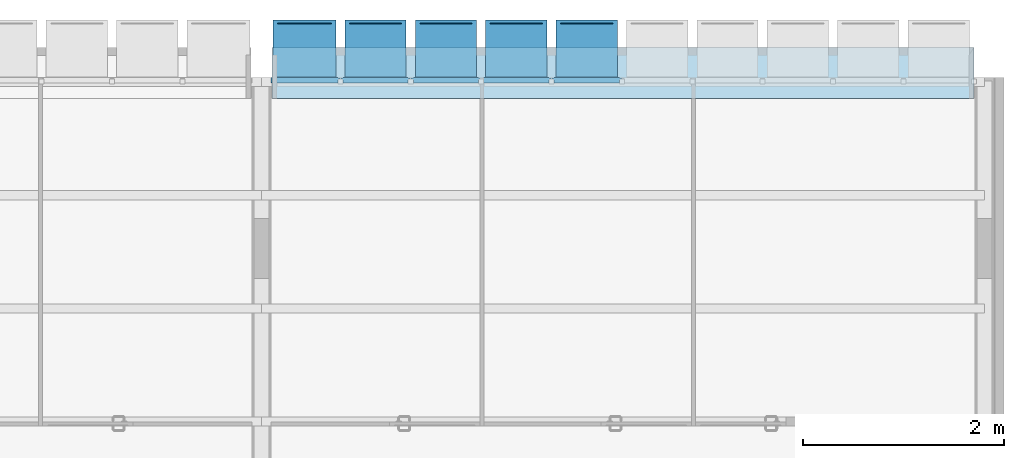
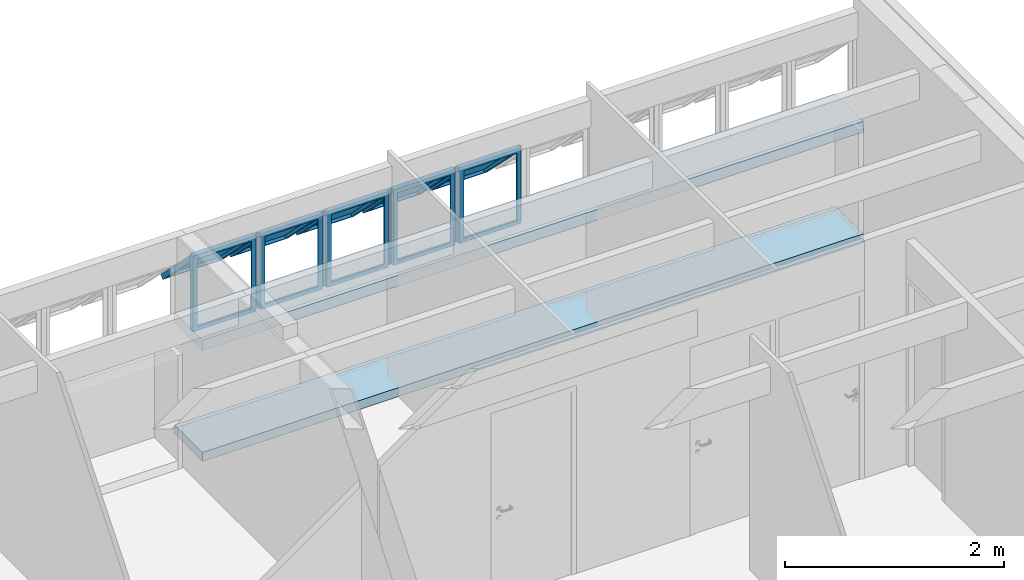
# One storey, part 16 of 40: 5 plates, 2 slabs, 1 element without a shape of its own.
"""IFC4 building model written with IfcOpenShell, lengths in millimetres."""

import ifcopenshell
import ifcopenshell.guid

model = None  # the IFC model being written
_history = None  # IfcOwnerHistory: only IFC2X3 demands one
_inside = {}  # id of a spatial element -> (the spatial element, [elements in it])
_under = {}  # id of a project, library or spatial element -> (it, [spatial elements below it])
_declared = {}  # id of a project -> (the project, [libraries it declares])
_typed = {}  # id of a type object -> (the type object, [elements of that type])
_made_of = {}  # id of a material, layer set ... -> (it, [elements and type objects made of it])


def new_model(schema):
    """Start an empty IFC model of exactly this schema.

    Asked for "IFC4X3", IfcOpenShell would pick the latest addendum, in which some entities
    have other attributes; the version numbers below select the first issue.
    IFC2X3 requires an IfcOwnerHistory on every rooted entity: one is made here for all.
    """
    global model, _history
    if schema == "IFC4X3":
        model = ifcopenshell.file(schema_version=(4, 3, 0, 0))
    else:
        model = ifcopenshell.file(schema=schema)
    _inside.clear()
    _under.clear()
    _declared.clear()
    _typed.clear()
    _made_of.clear()
    _history = None
    if model.schema == "IFC2X3":
        org = make("IfcOrganization", Name="unknown")
        user = make(
            "IfcPersonAndOrganization",
            ThePerson=make("IfcPerson", FamilyName="unknown"),
            TheOrganization=org,
        )
        app = make(
            "IfcApplication",
            ApplicationDeveloper=org,
            Version="unknown",
            ApplicationFullName="unknown",
            ApplicationIdentifier="unknown",
        )
        _history = make(
            "IfcOwnerHistory",
            OwningUser=user,
            OwningApplication=app,
            ChangeAction="ADDED",
            CreationDate=0,
        )
    return model


def make(cls, **values):
    """One entity of the class cls with the attributes given. An attribute that is None is left unset."""
    return model.create_entity(
        cls, **{name: value for name, value in values.items() if value is not None}
    )


def entity(cls, *values):
    """Any entity or typed value of the class cls, its attributes in the order of the schema. None: left unset."""
    e = model.create_entity(cls)
    for i, value in enumerate(values):
        if value is not None:
            e[i] = value
    return e


def rooted(cls, **values):
    """An entity with a GlobalId (a new one), such as an element, a storey or a relation."""
    return make(cls, GlobalId=ifcopenshell.guid.new(), OwnerHistory=_history, **values)


def si_unit(unit_type, name, prefix=None):
    """IfcSIUnit, for example si_unit("LENGTHUNIT", "METRE", prefix="MILLI")."""
    return make("IfcSIUnit", UnitType=unit_type, Prefix=prefix, Name=name)


def converted_unit(unit_type, name, factor, base, dimensions=None, offset=None):
    """IfcConversionBasedUnit, such as the inch: factor (a typed value) times the base unit."""
    return make(
        "IfcConversionBasedUnit"
        if offset is None
        else "IfcConversionBasedUnitWithOffset",
        ConversionOffset=offset,
        Dimensions=None
        if dimensions is None
        else entity("IfcDimensionalExponents", *dimensions),
        UnitType=unit_type,
        Name=name,
        ConversionFactor=make(
            "IfcMeasureWithUnit", ValueComponent=factor, UnitComponent=base
        ),
    )


def derived_unit(unit_type, elements):
    """IfcDerivedUnit: a product of units, each with its exponent."""
    return make(
        "IfcDerivedUnit",
        Elements=[
            make("IfcDerivedUnitElement", Unit=unit, Exponent=power)
            for unit, power in elements
        ],
        UnitType=unit_type,
    )


def assignment(units):
    """IfcUnitAssignment: the units of a project."""
    return None if units is None else make("IfcUnitAssignment", Units=units)


def point(xyz):
    """IfcCartesianPoint."""
    return None if xyz is None else make("IfcCartesianPoint", Coordinates=xyz)


def direction(xyz):
    """IfcDirection."""
    return None if xyz is None else make("IfcDirection", DirectionRatios=xyz)


def frame(location, z_axis=None, x_axis=None):
    """IfcAxis2Placement3D, a coordinate frame: its origin and axes. An axis left out is left unset."""
    return make(
        "IfcAxis2Placement3D",
        Location=point(location),
        Axis=direction(z_axis),
        RefDirection=direction(x_axis),
    )


def origin_with_axes():
    """The frame at (0, 0, 0) with the z axis (0, 0, 1) and the x axis (1, 0, 0) written out."""
    return frame((0.0, 0.0, 0.0), z_axis=(0.0, 0.0, 1.0), x_axis=(1.0, 0.0, 0.0))


def place(relative_to, where):
    """IfcLocalPlacement: puts the frame where relative to a parent placement (None: the world)."""
    return make(
        "IfcLocalPlacement", PlacementRelTo=relative_to, RelativePlacement=where
    )


def context(
    kind, dimensions, precision=None, world=None, true_north=None, identifier=None
):
    """IfcGeometricRepresentationContext, for example the 3D "Model" context."""
    return make(
        "IfcGeometricRepresentationContext",
        ContextIdentifier=identifier,
        ContextType=kind,
        CoordinateSpaceDimension=dimensions,
        Precision=precision,
        WorldCoordinateSystem=world,
        TrueNorth=true_north,
    )


def subcontext(parent, identifier, kind, view, scale=None):
    """IfcGeometricRepresentationSubContext, for example "Body" below "Model"."""
    return make(
        "IfcGeometricRepresentationSubContext",
        ContextIdentifier=identifier,
        ContextType=kind,
        ParentContext=parent,
        TargetScale=scale,
        TargetView=view,
    )


def project(units=None, contexts=None):
    """IfcProject with its units and contexts."""
    return rooted(
        "IfcProject",
        Name="project",
        RepresentationContexts=contexts,
        UnitsInContext=assignment(units),
    )


def spatial(cls, under=None, at=None, **own):
    """A site, building, storey or space (cls), placed at a placement, below another one or the project."""
    s = rooted(cls, ObjectPlacement=at, **own)
    if under is not None:
        _under.setdefault(under.id(), (under, []))[1].append(s)
    return s


def point_list(points):
    """IfcCartesianPointList2D or 3D."""
    cls = (
        "IfcCartesianPointList2D" if len(points[0]) == 2 else "IfcCartesianPointList3D"
    )
    return make(cls, CoordList=points)


def line(*indices):
    """IfcLineIndex: a straight run through numbered points of an indexed curve."""
    return model.create_entity("IfcLineIndex", indices)


def indexed_curve(points, segments=None, self_intersect=None):
    """IfcIndexedPolyCurve: lines and arcs through numbered points (the first is 1)."""
    return make(
        "IfcIndexedPolyCurve",
        Points=point_list(points),
        Segments=segments,
        SelfIntersect=self_intersect,
    )


def outline(outer, holes=None, kind="AREA"):
    """IfcArbitraryClosedProfileDef: a profile drawn as a closed curve; with holes, ...WithVoids."""
    if holes is None:
        return make("IfcArbitraryClosedProfileDef", ProfileType=kind, OuterCurve=outer)
    return make(
        "IfcArbitraryProfileDefWithVoids",
        ProfileType=kind,
        OuterCurve=outer,
        InnerCurves=holes,
    )


def extrude(swept, where, along, depth):
    """IfcExtrudedAreaSolid: the profile swept, set in the frame where, extruded along a direction by depth."""
    return make(
        "IfcExtrudedAreaSolid",
        SweptArea=swept,
        Position=where,
        ExtrudedDirection=direction(along),
        Depth=depth,
    )


def polygons(points, faces, closed=None, point_numbers=None):
    """IfcPolygonalFaceSet: a face is its outer loop, then its inner loops; points numbered from 1."""
    made = []
    for loops in faces:
        if len(loops) == 1:
            made.append(make("IfcIndexedPolygonalFace", CoordIndex=loops[0]))
        else:
            made.append(
                make(
                    "IfcIndexedPolygonalFaceWithVoids",
                    CoordIndex=loops[0],
                    InnerCoordIndices=loops[1:],
                )
            )
    return make(
        "IfcPolygonalFaceSet",
        Coordinates=point_list(points),
        Closed=closed,
        Faces=made,
        PnIndex=point_numbers,
    )


def shape(context_of_items, identifier, shape_type, items):
    """IfcShapeRepresentation: the items that make up one representation, for example the "Body"."""
    return make(
        "IfcShapeRepresentation",
        ContextOfItems=context_of_items,
        RepresentationIdentifier=identifier,
        RepresentationType=shape_type,
        Items=items,
    )


def source(mapping_origin, context_of_items, identifier, shape_type, items):
    """IfcRepresentationMap: a shape defined once, which mapped items show again and again."""
    return make(
        "IfcRepresentationMap",
        MappingOrigin=mapping_origin,
        MappedRepresentation=shape(context_of_items, identifier, shape_type, items),
    )


def transform(
    local_origin,
    x_axis=None,
    y_axis=None,
    z_axis=None,
    scale=None,
    scale2=None,
    scale3=None,
    uniform=True,
):
    """IfcCartesianTransformationOperator3D, or its non-uniform kind. x_axis, y_axis, z_axis: its Axis1, 2, 3."""
    if uniform:
        return make(
            "IfcCartesianTransformationOperator3D",
            Axis1=direction(x_axis),
            Axis2=direction(y_axis),
            LocalOrigin=point(local_origin),
            Scale=scale,
            Axis3=direction(z_axis),
        )
    return make(
        "IfcCartesianTransformationOperator3DnonUniform",
        Axis1=direction(x_axis),
        Axis2=direction(y_axis),
        LocalOrigin=point(local_origin),
        Scale=scale,
        Axis3=direction(z_axis),
        Scale2=scale2,
        Scale3=scale3,
    )


def mapped(mapping_source, mapping_target):
    """IfcMappedItem: shows the shape of a source again, moved by a transform."""
    return make(
        "IfcMappedItem", MappingSource=mapping_source, MappingTarget=mapping_target
    )


def material(Name=None, Category=None):
    """IfcMaterial."""
    return make("IfcMaterial", Name=Name, Category=Category)


def layer(
    of_material, thickness, ventilated=None, Name=None, Category=None, Priority=None
):
    """IfcMaterialLayer: one layer of a wall or slab, of a material (None: an air gap)."""
    return make(
        "IfcMaterialLayer",
        Material=of_material,
        LayerThickness=thickness,
        IsVentilated=ventilated,
        Name=Name,
        Category=Category,
        Priority=Priority,
    )


def layer_set(layers, Name=None):
    """IfcMaterialLayerSet."""
    return make("IfcMaterialLayerSet", MaterialLayers=layers, LayerSetName=Name)


def layer_usage(for_layer_set, set_direction, sense, offset, extent=None):
    """IfcMaterialLayerSetUsage: how a layer set lies in its element."""
    return make(
        "IfcMaterialLayerSetUsage",
        ForLayerSet=for_layer_set,
        LayerSetDirection=set_direction,
        DirectionSense=sense,
        OffsetFromReferenceLine=offset,
        ReferenceExtent=extent,
    )


def constituent(of_material, Name=None, Category=None, fraction=None):
    """IfcMaterialConstituent: one of the materials an element consists of."""
    return make(
        "IfcMaterialConstituent",
        Name=Name,
        Material=of_material,
        Fraction=fraction,
        Category=Category,
    )


def constituent_set(constituents=None, Name=None):
    """IfcMaterialConstituentSet."""
    return make(
        "IfcMaterialConstituentSet", Name=Name, MaterialConstituents=constituents
    )


def made_of(thing, what):
    """Note that an element or type object is made of a material, layer set ...; save() writes the relation."""
    if what is not None:
        _made_of.setdefault(what.id(), (what, []))[1].append(thing)
    return thing


def type_object(cls, material=None, **own):
    """A type object (cls), such as IfcWallType, which elements share."""
    return made_of(rooted(cls, **own), material)


def element(
    cls,
    number,
    at=None,
    inside=None,
    cuts=None,
    type_object=None,
    material=None,
    context=None,
    identifier="Body",
    shape_type=None,
    held_by="IfcProductDefinitionShape",
    body=None,
    shapes=None,
    **own,
):
    """One element of the class cls, such as IfcWall. Its Tag is "e" and its number.

    at: its placement. inside: the storey or other place that contains it. cuts: it is an
    opening in that element (IfcRelVoidsElement). A single representation is given by context,
    identifier, shape_type and body (its items); several are given by shapes. held_by: the class
    of the entity that holds the representations. save() writes the other relations.
    """
    e = rooted(cls, Tag="e%d" % number, ObjectPlacement=at, **own)
    if body is not None:
        shapes = [shape(context, identifier, shape_type, body)]
    if shapes is not None:
        e.Representation = make(held_by, Representations=shapes)
    if inside is not None:
        _inside.setdefault(inside.id(), (inside, []))[1].append(e)
    if cuts is not None:
        rooted(
            "IfcRelVoidsElement", RelatingBuildingElement=cuts, RelatedOpeningElement=e
        )
    if type_object is not None:
        _typed.setdefault(type_object.id(), (type_object, []))[1].append(e)
    return made_of(e, material)


def aggregate(whole, parts):
    """IfcRelAggregates: a whole, such as a stair, and the parts it consists of."""
    return rooted("IfcRelAggregates", RelatingObject=whole, RelatedObjects=parts)


def save(model, path):
    """Write the relations noted so far, then the file.

    IfcRelAggregates (storeys below a building ...), IfcRelContainedInSpatialStructure (elements
    in a storey), IfcRelDefinesByType, IfcRelAssociatesMaterial and IfcRelDeclares: one each for
    every whole, place, type object, material and project.
    """
    for whole, parts in _under.values():
        aggregate(whole, parts)
    for where, things in _inside.values():
        rooted(
            "IfcRelContainedInSpatialStructure",
            RelatedElements=things,
            RelatingStructure=where,
        )
    for kind, things in _typed.values():
        rooted("IfcRelDefinesByType", RelatedObjects=things, RelatingType=kind)
    for what, things in _made_of.values():
        rooted("IfcRelAssociatesMaterial", RelatedObjects=things, RelatingMaterial=what)
    for by, libraries in _declared.values():
        rooted("IfcRelDeclares", RelatingContext=by, RelatedDefinitions=libraries)
    model.write(path)


model = new_model("IFC4")

# Units and contexts
model_context = context("Model", 3, precision=0.01, world=origin_with_axes(), true_north=direction((0.0, 1.0)))
body_context = subcontext(model_context, "Body", "Model", "MODEL_VIEW")
ifc_project = project(units=[si_unit("LENGTHUNIT", "METRE", prefix="MILLI"), si_unit("AREAUNIT", "SQUARE_METRE"), si_unit("VOLUMEUNIT", "CUBIC_METRE"), converted_unit("PLANEANGLEUNIT", "DEGREE", entity("IfcPlaneAngleMeasure", 0.0174532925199), si_unit("PLANEANGLEUNIT", "RADIAN"), dimensions=[0, 0, 0, 0, 0, 0, 0]), converted_unit("TIMEUNIT", "Year", entity("IfcTimeMeasure", 31556926.0), si_unit("TIMEUNIT", "SECOND"), dimensions=[0, 0, 1, 0, 0, 0, 0]), si_unit("MASSUNIT", "GRAM", prefix="KILO"), si_unit("THERMODYNAMICTEMPERATUREUNIT", "DEGREE_CELSIUS"), si_unit("LUMINOUSINTENSITYUNIT", "LUMEN"), si_unit("ENERGYUNIT", "JOULE", prefix="MEGA"), derived_unit("THERMALCONDUCTANCEUNIT", [(si_unit("POWERUNIT", "WATT"), 1), (si_unit("LENGTHUNIT", "METRE"), -1), (si_unit("THERMODYNAMICTEMPERATUREUNIT", "KELVIN"), -1)]), derived_unit("SPECIFICHEATCAPACITYUNIT", [(si_unit("ENERGYUNIT", "JOULE"), 1), (si_unit("MASSUNIT", "GRAM", prefix="KILO"), -1), (si_unit("THERMODYNAMICTEMPERATUREUNIT", "KELVIN"), -1)]), derived_unit("MASSDENSITYUNIT", [(si_unit("MASSUNIT", "GRAM", prefix="KILO"), 1), (si_unit("VOLUMEUNIT", "CUBIC_METRE"), -1)])], contexts=[model_context])

# Site, building, storey
site_placement = place(None, origin_with_axes())
site = spatial("IfcSite", under=ifc_project, at=site_placement, Name="Local", CompositionType="ELEMENT")
building_placement = place(site_placement, origin_with_axes())
building = spatial("IfcBuilding", under=site, at=building_placement, Name="Construção", CompositionType="ELEMENT")
storey_placement = place(building_placement, origin_with_axes())
storey = spatial("IfcBuildingStorey", under=building, at=storey_placement, Name="Primeiro Pavimento", CompositionType="ELEMENT", Elevation=0.0)

# Slab
ifc_material_1 = material(Name="Concreto Armado Moldado in Loco - Estrutural")
ifc_layer_1 = layer(ifc_material_1, 120.0, ventilated="UNKNOWN", Name="Concreto Armado Moldado in Loco - Estrutural")
ifc_layer_set_1 = layer_set([ifc_layer_1], Name="Concreto Armado Moldado in Loco - Estrutural 120")
ifc_layer_usage_1 = layer_usage(ifc_layer_set_1, "AXIS3", "NEGATIVE", 120.0)
slab_type_1 = type_object("IfcSlabType", Name="Concreto Armado Moldado in Loco - Estrutural 120", PredefinedType="FLOOR")
slab_1_placement = place(storey_placement, frame((14470.0, 26160.0, 1355.0), z_axis=(0.0, 0.0, 1.0), x_axis=(1.0, 0.0, 0.0)))
element("IfcSlab", 1, at=slab_1_placement, inside=storey, type_object=slab_type_1, material=ifc_layer_usage_1, Name="APTO4-LAJE-002", PredefinedType="FLOOR", context=body_context, shape_type="SweptSolid", body=[
    extrude(outline(indexed_curve([(0.0, 0.0), (-6980.0, 0.0), (-6980.0, -510.0), (0.0, -510.0)], segments=[line(1, 2, 3, 4, 1)])), frame((0.0, 0.0, -120.0), z_axis=(0.0, 0.0, 1.0), x_axis=(1.0, 0.0, 0.0)), (0.0, 0.0, 1.0), 120.0),
])

# Window, plates
window_type = type_object("IfcWindowType", Name="Tipo de Parede Cortina", PartitioningType="NOTDEFINED", PredefinedType="NOTDEFINED")
window_placement = place(storey_placement, frame((8520.0, 25844.9790225, 1355.02054151), z_axis=(0.0, 0.0, 1.0), x_axis=(1.0, 0.0, 0.0)))
window = element("IfcWindow", 2, at=window_placement, inside=storey, type_object=window_type, Name="APTO4-JANELA-001", PredefinedType="NOTDEFINED")
ifc_material_2 = material(Name="Alumínio")
ifc_constituent_1 = constituent(ifc_material_2, Name="Alumínio")
ifc_material_3 = material(Name="Vidro")
ifc_constituent_2 = constituent(ifc_material_3, Name="Vidro")
ifc_constituent_set_1 = constituent_set(constituents=[ifc_constituent_1, ifc_constituent_2])
plate_type_1 = type_object("IfcPlateType", Name="Painel Principal 690 x 845 x 20", PredefinedType="CURTAIN_PANEL")
shared_shape_1 = source(origin_with_axes(), body_context, "Body", "Tessellation", [
    polygons([(25.0000036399, 0.0, -40.0), (674.999997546, 0.0, -40.0), (674.999997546, 0.0, -35.0), (25.0000036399, 0.0, -35.0), (70.0000036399, 45.0, -40.0), (629.999997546, 45.0, -40.0), (629.999997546, 45.0, -35.0), (70.0000036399, 45.0, -35.0)], [[[1, 2, 3, 4]], [[1, 5, 6, 2]], [[2, 6, 7, 3]], [[4, 3, 7, 8]], [[5, 1, 4, 8]], [[6, 5, 8, 7]]], closed=True),
    polygons([(674.999997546, 0.0, -40.0), (674.999997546, 844.999891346, -40.0), (674.999997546, 844.999891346, -35.0), (674.999997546, 0.0, -35.0), (629.999997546, 45.0, -40.0), (629.999997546, 799.999891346, -40.0), (629.999997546, 799.999891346, -35.0), (629.999997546, 45.0, -35.0)], [[[1, 2, 3, 4]], [[1, 5, 6, 2]], [[2, 6, 7, 3]], [[4, 3, 7, 8]], [[5, 1, 4, 8]], [[6, 5, 8, 7]]], closed=True),
    polygons([(25.0000036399, 844.999891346, -40.0), (70.0000036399, 799.999891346, -40.0), (70.0000036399, 799.999891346, -35.0), (25.0000036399, 844.999891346, -35.0), (674.999997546, 844.999891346, -40.0), (629.999997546, 799.999891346, -40.0), (629.999997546, 799.999891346, -35.0), (674.999997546, 844.999891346, -35.0)], [[[1, 2, 3, 4]], [[1, 5, 6, 2]], [[2, 6, 7, 3]], [[4, 3, 7, 8]], [[5, 1, 4, 8]], [[6, 5, 8, 7]]], closed=True),
    polygons([(25.0000036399, 0.0, -40.0), (70.0000036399, 45.0, -40.0), (70.0000036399, 45.0, -35.0), (25.0000036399, 0.0, -35.0), (25.0000036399, 844.999891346, -40.0), (70.0000036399, 799.999891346, -40.0), (70.0000036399, 799.999891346, -35.0), (25.0000036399, 844.999891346, -35.0)], [[[1, 2, 3, 4]], [[1, 5, 6, 2]], [[2, 6, 7, 3]], [[4, 3, 7, 8]], [[5, 1, 4, 8]], [[6, 5, 8, 7]]], closed=True),
    polygons([(25.0000036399, 0.0, -35.0), (674.999997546, 0.0, -35.0), (674.999997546, 0.0, 15.0), (25.0000036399, 0.0, 15.0), (45.0000036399, 20.0, -35.0), (654.999997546, 20.0, -35.0), (654.999997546, 20.0, 15.0), (45.0000036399, 20.0, 15.0)], [[[1, 2, 3, 4]], [[1, 5, 6, 2]], [[2, 6, 7, 3]], [[4, 3, 7, 8]], [[5, 1, 4, 8]], [[6, 5, 8, 7]]], closed=True),
    polygons([(674.999997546, 0.0, -35.0), (674.999997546, 844.999891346, -35.0), (674.999997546, 844.999891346, 15.0), (674.999997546, 0.0, 15.0), (654.999997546, 20.0, -35.0), (654.999997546, 824.999891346, -35.0), (654.999997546, 824.999891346, 15.0), (654.999997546, 20.0, 15.0)], [[[1, 2, 3, 4]], [[1, 5, 6, 2]], [[2, 6, 7, 3]], [[4, 3, 7, 8]], [[5, 1, 4, 8]], [[6, 5, 8, 7]]], closed=True),
    polygons([(25.0000036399, 844.999891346, -35.0), (45.0000036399, 824.999891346, -35.0), (45.0000036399, 824.999891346, 15.0), (25.0000036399, 844.999891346, 15.0), (674.999997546, 844.999891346, -35.0), (654.999997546, 824.999891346, -35.0), (654.999997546, 824.999891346, 15.0), (674.999997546, 844.999891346, 15.0)], [[[1, 2, 3, 4]], [[1, 5, 6, 2]], [[2, 6, 7, 3]], [[4, 3, 7, 8]], [[5, 1, 4, 8]], [[6, 5, 8, 7]]], closed=True),
    polygons([(25.0000036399, 0.0, -35.0), (45.0000036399, 20.0, -35.0), (45.0000036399, 20.0, 15.0), (25.0000036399, 0.0, 15.0), (25.0000036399, 844.999891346, -35.0), (45.0000036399, 824.999891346, -35.0), (45.0000036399, 824.999891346, 15.0), (25.0000036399, 844.999891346, 15.0)], [[[1, 2, 3, 4]], [[1, 5, 6, 2]], [[2, 6, 7, 3]], [[4, 3, 7, 8]], [[5, 1, 4, 8]], [[6, 5, 8, 7]]], closed=True),
    polygons([(694.999995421, 0.0, -10.0), (694.999995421, 844.999891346, -10.0), (694.999995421, 844.999891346, 10.0), (694.999995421, 0.0, 10.0), (674.999997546, 0.0, -10.0), (674.999997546, 844.999891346, -10.0), (674.999997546, 844.999891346, 10.0), (674.999997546, 0.0, 10.0)], [[[1, 2, 3, 4]], [[1, 5, 6, 2]], [[2, 6, 7, 3]], [[4, 3, 7, 8]], [[5, 1, 4, 8]], [[6, 5, 8, 7]]], closed=True),
    polygons([(5.00000576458, 844.999891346, -10.0), (5.00000576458, 0.0, -10.0), (5.00000576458, 0.0, 10.0), (5.00000576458, 844.999891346, 10.0), (25.0000036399, 844.999891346, -10.0), (25.0000036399, 0.0, -10.0), (25.0000036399, 0.0, 10.0), (25.0000036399, 844.999891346, 10.0)], [[[1, 2, 3, 4]], [[1, 5, 6, 2]], [[2, 6, 7, 3]], [[4, 3, 7, 8]], [[5, 1, 4, 8]], [[6, 5, 8, 7]]], closed=True),
    polygons([(90.0000036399, 252.243475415, 517.045737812), (90.0000036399, 757.824747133, 11.4644660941), (90.0000036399, 796.715620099, 50.3553390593), (90.0000036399, 291.13434838, 555.936610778), (45.0000036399, 220.423670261, 548.865542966), (45.0000036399, 789.644552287, -20.3553390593), (45.0000036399, 828.535425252, 18.5355339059), (45.0000036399, 259.314543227, 587.756415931)], [[[1, 2, 3, 4]], [[1, 5, 6, 2]], [[2, 6, 7, 3]], [[4, 3, 7, 8]], [[5, 1, 4, 8]], [[6, 5, 8, 7]]], closed=True),
    polygons([(654.999997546, 220.423670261, 548.865542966), (654.999997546, 789.644552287, -20.3553390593), (654.999997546, 828.535425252, 18.5355339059), (654.999997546, 259.314543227, 587.756415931), (609.999997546, 252.243475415, 517.045737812), (609.999997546, 757.824747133, 11.4644660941), (609.999997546, 796.715620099, 50.3553390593), (609.999997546, 291.13434838, 555.936610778)], [[[1, 2, 3, 4]], [[1, 5, 6, 2]], [[2, 6, 7, 3]], [[4, 3, 7, 8]], [[5, 1, 4, 8]], [[6, 5, 8, 7]]], closed=True),
    polygons([(654.999997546, 220.423670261, 548.865542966), (609.999997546, 252.243475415, 517.045737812), (609.999997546, 291.13434838, 555.936610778), (654.999997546, 259.314543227, 587.756415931), (45.0000036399, 220.423670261, 548.865542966), (90.0000036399, 252.243475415, 517.045737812), (90.0000036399, 291.13434838, 555.936610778), (45.0000036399, 259.314543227, 587.756415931)], [[[1, 2, 3, 4]], [[1, 5, 6, 2]], [[2, 6, 7, 3]], [[4, 3, 7, 8]], [[5, 1, 4, 8]], [[6, 5, 8, 7]]], closed=True),
    polygons([(45.0000036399, 789.644552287, -20.3553390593), (90.0000036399, 757.824747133, 11.4644660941), (90.0000036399, 796.715620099, 50.3553390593), (45.0000036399, 828.535425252, 18.5355339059), (654.999997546, 789.644552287, -20.3553390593), (609.999997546, 757.824747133, 11.4644660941), (609.999997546, 796.715620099, 50.3553390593), (654.999997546, 828.535425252, 18.5355339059)], [[[1, 2, 3, 4]], [[1, 5, 6, 2]], [[2, 6, 7, 3]], [[4, 3, 7, 8]], [[5, 1, 4, 8]], [[6, 5, 8, 7]]], closed=True),
    polygons([(90.0000036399, 272.749572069, 537.551834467), (609.999997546, 272.749572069, 537.551834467), (609.999997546, 284.063280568, 548.865542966), (90.0000036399, 284.063280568, 548.865542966), (90.0000036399, 778.330843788, 31.9705627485), (609.999997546, 778.330843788, 31.9705627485), (609.999997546, 789.644552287, 43.2842712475), (90.0000036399, 789.644552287, 43.2842712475)], [[[1, 2, 3, 4]], [[1, 5, 6, 2]], [[2, 6, 7, 3]], [[4, 3, 7, 8]], [[5, 1, 4, 8]], [[6, 5, 8, 7]]], closed=True),
])
plate_1_placement = place(window_placement, frame((0.0, 0.0, 422.499945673), z_axis=(0.0, 0.0, 1.0), x_axis=(1.0, 0.0, 0.0)))
plate_1 = element("IfcPlate", 3, at=plate_1_placement, type_object=plate_type_1, material=ifc_constituent_set_1, Name="APTO4-Painel-Prin-030", PredefinedType="CURTAIN_PANEL", context=body_context, shape_type="MappedRepresentation", body=[
    mapped(shared_shape_1, transform((350.0, 0.0, -422.499945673), x_axis=(-1.0, 0.0, 0.0), y_axis=(0.0, 0.0, 1.0), z_axis=(0.0, 1.0, 0.0))),
])
ifc_constituent_3 = constituent(ifc_material_2, Name="Alumínio")
ifc_constituent_4 = constituent(ifc_material_3, Name="Vidro")
ifc_constituent_set_2 = constituent_set(constituents=[ifc_constituent_3, ifc_constituent_4])
plate_2_placement = place(window_placement, frame((700.0, 0.0, 422.499945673), z_axis=(0.0, 0.0, 1.0), x_axis=(1.0, 0.0, 0.0)))
plate_2 = element("IfcPlate", 4, at=plate_2_placement, type_object=plate_type_1, material=ifc_constituent_set_2, Name="APTO4-Painel-Prin-020", PredefinedType="CURTAIN_PANEL", context=body_context, shape_type="MappedRepresentation", body=[
    mapped(shared_shape_1, transform((350.0, 0.0, -422.499945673), x_axis=(-1.0, 0.0, 0.0), y_axis=(0.0, 0.0, 1.0), z_axis=(0.0, 1.0, 0.0))),
])
ifc_constituent_5 = constituent(ifc_material_2, Name="Alumínio")
ifc_constituent_6 = constituent(ifc_material_3, Name="Vidro")
ifc_constituent_set_3 = constituent_set(constituents=[ifc_constituent_5, ifc_constituent_6])
plate_3_placement = place(window_placement, frame((1400.0, 0.0, 422.499945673), z_axis=(0.0, 0.0, 1.0), x_axis=(1.0, 0.0, 0.0)))
plate_3 = element("IfcPlate", 5, at=plate_3_placement, type_object=plate_type_1, material=ifc_constituent_set_3, Name="APTO4-Painel-Prin-029", PredefinedType="CURTAIN_PANEL", context=body_context, shape_type="MappedRepresentation", body=[
    mapped(shared_shape_1, transform((350.0, 0.0, -422.499945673), x_axis=(-1.0, 0.0, 0.0), y_axis=(0.0, 0.0, 1.0), z_axis=(0.0, 1.0, 0.0))),
])
ifc_constituent_7 = constituent(ifc_material_2, Name="Alumínio")
ifc_constituent_8 = constituent(ifc_material_3, Name="Vidro")
ifc_constituent_set_4 = constituent_set(constituents=[ifc_constituent_7, ifc_constituent_8])
plate_type_2 = type_object("IfcPlateType", Name="Painel Principal 685 x 845 x 20", PredefinedType="CURTAIN_PANEL")
shared_shape_2 = source(origin_with_axes(), body_context, "Body", "Tessellation", [
    polygons([(25.0000046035, 0.0, -40.0), (690.000079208, 0.0, -40.0), (690.000079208, 0.0, -35.0), (25.0000046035, 0.0, -35.0), (70.0000046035, 45.0, -40.0), (645.000079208, 45.0, -40.0), (645.000079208, 45.0, -35.0), (70.0000046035, 45.0, -35.0)], [[[1, 2, 3, 4]], [[1, 5, 6, 2]], [[2, 6, 7, 3]], [[4, 3, 7, 8]], [[5, 1, 4, 8]], [[6, 5, 8, 7]]], closed=True),
    polygons([(690.000079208, 0.0, -40.0), (690.000079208, 844.999923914, -40.0), (690.000079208, 844.999923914, -35.0), (690.000079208, 0.0, -35.0), (645.000079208, 45.0, -40.0), (645.000079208, 799.999923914, -40.0), (645.000079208, 799.999923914, -35.0), (645.000079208, 45.0, -35.0)], [[[1, 2, 3, 4]], [[1, 5, 6, 2]], [[2, 6, 7, 3]], [[4, 3, 7, 8]], [[5, 1, 4, 8]], [[6, 5, 8, 7]]], closed=True),
    polygons([(25.0000046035, 844.999923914, -40.0), (70.0000046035, 799.999923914, -40.0), (70.0000046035, 799.999923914, -35.0), (25.0000046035, 844.999923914, -35.0), (690.000079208, 844.999923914, -40.0), (645.000079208, 799.999923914, -40.0), (645.000079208, 799.999923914, -35.0), (690.000079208, 844.999923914, -35.0)], [[[1, 2, 3, 4]], [[1, 5, 6, 2]], [[2, 6, 7, 3]], [[4, 3, 7, 8]], [[5, 1, 4, 8]], [[6, 5, 8, 7]]], closed=True),
    polygons([(25.0000046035, 0.0, -40.0), (70.0000046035, 45.0, -40.0), (70.0000046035, 45.0, -35.0), (25.0000046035, 0.0, -35.0), (25.0000046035, 844.999923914, -40.0), (70.0000046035, 799.999923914, -40.0), (70.0000046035, 799.999923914, -35.0), (25.0000046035, 844.999923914, -35.0)], [[[1, 2, 3, 4]], [[1, 5, 6, 2]], [[2, 6, 7, 3]], [[4, 3, 7, 8]], [[5, 1, 4, 8]], [[6, 5, 8, 7]]], closed=True),
    polygons([(25.0000046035, 0.0, -35.0), (690.000079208, 0.0, -35.0), (690.000079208, 0.0, 15.0), (25.0000046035, 0.0, 15.0), (45.0000046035, 20.0, -35.0), (670.000079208, 20.0, -35.0), (670.000079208, 20.0, 15.0), (45.0000046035, 20.0, 15.0)], [[[1, 2, 3, 4]], [[1, 5, 6, 2]], [[2, 6, 7, 3]], [[4, 3, 7, 8]], [[5, 1, 4, 8]], [[6, 5, 8, 7]]], closed=True),
    polygons([(690.000079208, 0.0, -35.0), (690.000079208, 844.999923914, -35.0), (690.000079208, 844.999923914, 15.0), (690.000079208, 0.0, 15.0), (670.000079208, 20.0, -35.0), (670.000079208, 824.999923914, -35.0), (670.000079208, 824.999923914, 15.0), (670.000079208, 20.0, 15.0)], [[[1, 2, 3, 4]], [[1, 5, 6, 2]], [[2, 6, 7, 3]], [[4, 3, 7, 8]], [[5, 1, 4, 8]], [[6, 5, 8, 7]]], closed=True),
    polygons([(25.0000046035, 844.999923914, -35.0), (45.0000046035, 824.999923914, -35.0), (45.0000046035, 824.999923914, 15.0), (25.0000046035, 844.999923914, 15.0), (690.000079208, 844.999923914, -35.0), (670.000079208, 824.999923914, -35.0), (670.000079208, 824.999923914, 15.0), (690.000079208, 844.999923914, 15.0)], [[[1, 2, 3, 4]], [[1, 5, 6, 2]], [[2, 6, 7, 3]], [[4, 3, 7, 8]], [[5, 1, 4, 8]], [[6, 5, 8, 7]]], closed=True),
    polygons([(25.0000046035, 0.0, -35.0), (45.0000046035, 20.0, -35.0), (45.0000046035, 20.0, 15.0), (25.0000046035, 0.0, 15.0), (25.0000046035, 844.999923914, -35.0), (45.0000046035, 824.999923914, -35.0), (45.0000046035, 824.999923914, 15.0), (25.0000046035, 844.999923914, 15.0)], [[[1, 2, 3, 4]], [[1, 5, 6, 2]], [[2, 6, 7, 3]], [[4, 3, 7, 8]], [[5, 1, 4, 8]], [[6, 5, 8, 7]]], closed=True),
    polygons([(5.00000595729, 844.999923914, -10.0), (5.00000595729, 0.0, -10.0), (5.00000595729, 0.0, 10.0), (5.00000595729, 844.999923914, 10.0), (25.0000046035, 844.999923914, -10.0), (25.0000046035, 0.0, -10.0), (25.0000046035, 0.0, 10.0), (25.0000046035, 844.999923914, 10.0)], [[[1, 2, 3, 4]], [[1, 5, 6, 2]], [[2, 6, 7, 3]], [[4, 3, 7, 8]], [[5, 1, 4, 8]], [[6, 5, 8, 7]]], closed=True),
    polygons([(90.0000046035, 252.243484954, 517.045760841), (90.0000046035, 757.824779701, 11.4644660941), (90.0000046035, 796.715652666, 50.3553390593), (90.0000046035, 291.134357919, 555.936633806), (45.0000046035, 220.4236798, 548.865565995), (45.0000046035, 789.644584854, -20.3553390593), (45.0000046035, 828.535457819, 18.5355339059), (45.0000046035, 259.314552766, 587.75643896)], [[[1, 2, 3, 4]], [[1, 5, 6, 2]], [[2, 6, 7, 3]], [[4, 3, 7, 8]], [[5, 1, 4, 8]], [[6, 5, 8, 7]]], closed=True),
    polygons([(670.000079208, 220.4236798, 548.865565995), (670.000079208, 789.644584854, -20.3553390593), (670.000079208, 828.535457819, 18.5355339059), (670.000079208, 259.314552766, 587.75643896), (625.000079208, 252.243484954, 517.045760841), (625.000079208, 757.824779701, 11.4644660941), (625.000079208, 796.715652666, 50.3553390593), (625.000079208, 291.134357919, 555.936633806)], [[[1, 2, 3, 4]], [[1, 5, 6, 2]], [[2, 6, 7, 3]], [[4, 3, 7, 8]], [[5, 1, 4, 8]], [[6, 5, 8, 7]]], closed=True),
    polygons([(670.000079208, 220.4236798, 548.865565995), (625.000079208, 252.243484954, 517.045760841), (625.000079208, 291.134357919, 555.936633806), (670.000079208, 259.314552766, 587.75643896), (45.0000046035, 220.4236798, 548.865565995), (90.0000046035, 252.243484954, 517.045760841), (90.0000046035, 291.134357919, 555.936633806), (45.0000046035, 259.314552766, 587.75643896)], [[[1, 2, 3, 4]], [[1, 5, 6, 2]], [[2, 6, 7, 3]], [[4, 3, 7, 8]], [[5, 1, 4, 8]], [[6, 5, 8, 7]]], closed=True),
    polygons([(45.0000046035, 789.644584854, -20.3553390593), (90.0000046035, 757.824779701, 11.4644660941), (90.0000046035, 796.715652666, 50.3553390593), (45.0000046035, 828.535457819, 18.5355339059), (670.000079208, 789.644584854, -20.3553390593), (625.000079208, 757.824779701, 11.4644660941), (625.000079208, 796.715652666, 50.3553390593), (670.000079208, 828.535457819, 18.5355339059)], [[[1, 2, 3, 4]], [[1, 5, 6, 2]], [[2, 6, 7, 3]], [[4, 3, 7, 8]], [[5, 1, 4, 8]], [[6, 5, 8, 7]]], closed=True),
    polygons([(90.0000046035, 272.749581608, 537.551857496), (625.000079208, 272.749581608, 537.551857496), (625.000079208, 284.063290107, 548.865565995), (90.0000046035, 284.063290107, 548.865565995), (90.0000046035, 778.330876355, 31.9705627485), (625.000079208, 778.330876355, 31.9705627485), (625.000079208, 789.644584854, 43.2842712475), (90.0000046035, 789.644584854, 43.2842712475)], [[[1, 2, 3, 4]], [[1, 5, 6, 2]], [[2, 6, 7, 3]], [[4, 3, 7, 8]], [[5, 1, 4, 8]], [[6, 5, 8, 7]]], closed=True),
])
plate_4_placement = place(window_placement, frame((-695.000037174, 0.0, 422.499953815), z_axis=(0.0, 0.0, 1.0), x_axis=(1.0, 0.0, 0.0)))
plate_4 = element("IfcPlate", 6, at=plate_4_placement, type_object=plate_type_2, material=ifc_constituent_set_4, Name="APTO4-Painel-Prin-031", PredefinedType="CURTAIN_PANEL", context=body_context, shape_type="MappedRepresentation", body=[
    mapped(shared_shape_2, transform((345.000037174, 0.0, -422.499953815), x_axis=(-1.0, 0.0, 0.0), y_axis=(0.0, 0.0, 1.0), z_axis=(0.0, 1.0, 0.0))),
])
ifc_constituent_9 = constituent(ifc_material_2, Name="Alumínio")
ifc_constituent_10 = constituent(ifc_material_3, Name="Vidro")
ifc_constituent_set_5 = constituent_set(constituents=[ifc_constituent_9, ifc_constituent_10])
shared_shape_3 = source(origin_with_axes(), body_context, "Body", "Tessellation", [
    polygons([(25.0000036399, 0.0, -40.0), (674.999997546, 0.0, -40.0), (674.999997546, 0.0, -35.0), (25.0000036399, 0.0, -35.0), (70.0000036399, 45.0, -40.0), (629.999997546, 45.0, -40.0), (629.999997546, 45.0, -35.0), (70.0000036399, 45.0, -35.0)], [[[1, 2, 3, 4]], [[1, 5, 6, 2]], [[2, 6, 7, 3]], [[4, 3, 7, 8]], [[5, 1, 4, 8]], [[6, 5, 8, 7]]], closed=True),
    polygons([(674.999997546, 0.0, -40.0), (674.999997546, 844.999891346, -40.0), (674.999997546, 844.999891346, -35.0), (674.999997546, 0.0, -35.0), (629.999997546, 45.0, -40.0), (629.999997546, 799.999891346, -40.0), (629.999997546, 799.999891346, -35.0), (629.999997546, 45.0, -35.0)], [[[1, 2, 3, 4]], [[1, 5, 6, 2]], [[2, 6, 7, 3]], [[4, 3, 7, 8]], [[5, 1, 4, 8]], [[6, 5, 8, 7]]], closed=True),
    polygons([(25.0000036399, 844.999891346, -40.0), (70.0000036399, 799.999891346, -40.0), (70.0000036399, 799.999891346, -35.0), (25.0000036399, 844.999891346, -35.0), (674.999997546, 844.999891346, -40.0), (629.999997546, 799.999891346, -40.0), (629.999997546, 799.999891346, -35.0), (674.999997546, 844.999891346, -35.0)], [[[1, 2, 3, 4]], [[1, 5, 6, 2]], [[2, 6, 7, 3]], [[4, 3, 7, 8]], [[5, 1, 4, 8]], [[6, 5, 8, 7]]], closed=True),
    polygons([(25.0000036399, 0.0, -40.0), (70.0000036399, 45.0, -40.0), (70.0000036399, 45.0, -35.0), (25.0000036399, 0.0, -35.0), (25.0000036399, 844.999891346, -40.0), (70.0000036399, 799.999891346, -40.0), (70.0000036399, 799.999891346, -35.0), (25.0000036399, 844.999891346, -35.0)], [[[1, 2, 3, 4]], [[1, 5, 6, 2]], [[2, 6, 7, 3]], [[4, 3, 7, 8]], [[5, 1, 4, 8]], [[6, 5, 8, 7]]], closed=True),
    polygons([(25.0000036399, 0.0, -35.0), (674.999997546, 0.0, -35.0), (674.999997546, 0.0, 15.0), (25.0000036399, 0.0, 15.0), (45.0000036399, 20.0, -35.0), (654.999997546, 20.0, -35.0), (654.999997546, 20.0, 15.0), (45.0000036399, 20.0, 15.0)], [[[1, 2, 3, 4]], [[1, 5, 6, 2]], [[2, 6, 7, 3]], [[4, 3, 7, 8]], [[5, 1, 4, 8]], [[6, 5, 8, 7]]], closed=True),
    polygons([(674.999997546, 0.0, -35.0), (674.999997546, 844.999891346, -35.0), (674.999997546, 844.999891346, 15.0), (674.999997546, 0.0, 15.0), (654.999997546, 20.0, -35.0), (654.999997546, 824.999891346, -35.0), (654.999997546, 824.999891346, 15.0), (654.999997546, 20.0, 15.0)], [[[1, 2, 3, 4]], [[1, 5, 6, 2]], [[2, 6, 7, 3]], [[4, 3, 7, 8]], [[5, 1, 4, 8]], [[6, 5, 8, 7]]], closed=True),
    polygons([(25.0000036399, 844.999891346, -35.0), (45.0000036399, 824.999891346, -35.0), (45.0000036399, 824.999891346, 15.0), (25.0000036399, 844.999891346, 15.0), (674.999997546, 844.999891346, -35.0), (654.999997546, 824.999891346, -35.0), (654.999997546, 824.999891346, 15.0), (674.999997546, 844.999891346, 15.0)], [[[1, 2, 3, 4]], [[1, 5, 6, 2]], [[2, 6, 7, 3]], [[4, 3, 7, 8]], [[5, 1, 4, 8]], [[6, 5, 8, 7]]], closed=True),
    polygons([(25.0000036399, 0.0, -35.0), (45.0000036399, 20.0, -35.0), (45.0000036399, 20.0, 15.0), (25.0000036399, 0.0, 15.0), (25.0000036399, 844.999891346, -35.0), (45.0000036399, 824.999891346, -35.0), (45.0000036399, 824.999891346, 15.0), (25.0000036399, 844.999891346, 15.0)], [[[1, 2, 3, 4]], [[1, 5, 6, 2]], [[2, 6, 7, 3]], [[4, 3, 7, 8]], [[5, 1, 4, 8]], [[6, 5, 8, 7]]], closed=True),
    polygons([(694.999995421, 0.0, -10.0), (694.999995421, 844.999891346, -10.0), (694.999995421, 844.999891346, 10.0), (694.999995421, 0.0, 10.0), (674.999997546, 0.0, -10.0), (674.999997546, 844.999891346, -10.0), (674.999997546, 844.999891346, 10.0), (674.999997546, 0.0, 10.0)], [[[1, 2, 3, 4]], [[1, 5, 6, 2]], [[2, 6, 7, 3]], [[4, 3, 7, 8]], [[5, 1, 4, 8]], [[6, 5, 8, 7]]], closed=True),
    polygons([(5.00000576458, 844.999891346, -10.0), (5.00000576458, 0.0, -10.0), (5.00000576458, 0.0, 10.0), (5.00000576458, 844.999891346, 10.0), (25.0000036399, 844.999891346, -10.0), (25.0000036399, 0.0, -10.0), (25.0000036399, 0.0, 10.0), (25.0000036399, 844.999891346, 10.0)], [[[1, 2, 3, 4]], [[1, 5, 6, 2]], [[2, 6, 7, 3]], [[4, 3, 7, 8]], [[5, 1, 4, 8]], [[6, 5, 8, 7]]], closed=True),
    polygons([(90.0000036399, 252.243475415, 517.045737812), (90.0000036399, 757.824747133, 11.4644660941), (90.0000036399, 796.715620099, 50.3553390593), (90.0000036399, 291.13434838, 555.936610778), (45.0000036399, 220.423670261, 548.865542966), (45.0000036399, 789.644552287, -20.3553390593), (45.0000036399, 828.535425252, 18.5355339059), (45.0000036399, 259.314543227, 587.756415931)], [[[1, 2, 3, 4]], [[1, 5, 6, 2]], [[2, 6, 7, 3]], [[4, 3, 7, 8]], [[5, 1, 4, 8]], [[6, 5, 8, 7]]], closed=True),
    polygons([(654.999997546, 220.423670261, 548.865542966), (654.999997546, 789.644552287, -20.3553390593), (654.999997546, 828.535425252, 18.5355339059), (654.999997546, 259.314543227, 587.756415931), (609.999997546, 252.243475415, 517.045737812), (609.999997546, 757.824747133, 11.4644660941), (609.999997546, 796.715620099, 50.3553390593), (609.999997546, 291.13434838, 555.936610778)], [[[1, 2, 3, 4]], [[1, 5, 6, 2]], [[2, 6, 7, 3]], [[4, 3, 7, 8]], [[5, 1, 4, 8]], [[6, 5, 8, 7]]], closed=True),
    polygons([(654.999997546, 220.423670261, 548.865542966), (609.999997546, 252.243475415, 517.045737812), (609.999997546, 291.13434838, 555.936610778), (654.999997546, 259.314543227, 587.756415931), (45.0000036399, 220.423670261, 548.865542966), (90.0000036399, 252.243475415, 517.045737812), (90.0000036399, 291.13434838, 555.936610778), (45.0000036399, 259.314543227, 587.756415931)], [[[1, 2, 3, 4]], [[1, 5, 6, 2]], [[2, 6, 7, 3]], [[4, 3, 7, 8]], [[5, 1, 4, 8]], [[6, 5, 8, 7]]], closed=True),
    polygons([(45.0000036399, 789.644552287, -20.3553390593), (90.0000036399, 757.824747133, 11.4644660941), (90.0000036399, 796.715620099, 50.3553390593), (45.0000036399, 828.535425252, 18.5355339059), (654.999997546, 789.644552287, -20.3553390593), (609.999997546, 757.824747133, 11.4644660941), (609.999997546, 796.715620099, 50.3553390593), (654.999997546, 828.535425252, 18.5355339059)], [[[1, 2, 3, 4]], [[1, 5, 6, 2]], [[2, 6, 7, 3]], [[4, 3, 7, 8]], [[5, 1, 4, 8]], [[6, 5, 8, 7]]], closed=True),
    polygons([(90.0000036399, 272.749572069, 537.551834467), (609.999997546, 272.749572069, 537.551834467), (609.999997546, 284.063280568, 548.865542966), (90.0000036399, 284.063280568, 548.865542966), (90.0000036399, 778.330843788, 31.9705627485), (609.999997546, 778.330843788, 31.9705627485), (609.999997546, 789.644552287, 43.2842712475), (90.0000036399, 789.644552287, 43.2842712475)], [[[1, 2, 3, 4]], [[1, 5, 6, 2]], [[2, 6, 7, 3]], [[4, 3, 7, 8]], [[5, 1, 4, 8]], [[6, 5, 8, 7]]], closed=True),
])
plate_5_placement = place(window_placement, frame((2100.0, 0.0, 422.499945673), z_axis=(0.0, 0.0, 1.0), x_axis=(1.0, 0.0, 0.0)))
plate_5 = element("IfcPlate", 7, at=plate_5_placement, type_object=plate_type_1, material=ifc_constituent_set_5, Name="APTO4-Painel-Prin-025", PredefinedType="CURTAIN_PANEL", context=body_context, shape_type="MappedRepresentation", body=[
    mapped(shared_shape_3, transform((350.0, 0.0, -422.499945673), x_axis=(-1.0, 0.0, 0.0), y_axis=(0.0, 0.0, 1.0), z_axis=(0.0, 1.0, 0.0))),
])
aggregate(window, [plate_1, plate_4, plate_5, plate_2, plate_3])

# Slab
ifc_layer_2 = layer(ifc_material_1, 100.0, ventilated="UNKNOWN", Name="Concreto Armado Moldado in Loco - Estrutural")
ifc_layer_set_2 = layer_set([ifc_layer_2], Name="Concreto Armado Moldado in Loco - Estrutural 100")
ifc_layer_usage_2 = layer_usage(ifc_layer_set_2, "AXIS3", "NEGATIVE", 100.0)
slab_type_2 = type_object("IfcSlabType", Name="Concreto Armado Moldado in Loco - Estrutural 100", PredefinedType="FLOOR")
slab_2_placement = place(storey_placement, frame((14470.0, 26160.0, 100.0), z_axis=(0.0, 0.0, 1.0), x_axis=(1.0, 0.0, 0.0)))
element("IfcSlab", 8, at=slab_2_placement, inside=storey, type_object=slab_type_2, material=ifc_layer_usage_2, Name="APTO4-LAJE-001", PredefinedType="FLOOR", context=body_context, shape_type="SweptSolid", body=[
    extrude(outline(indexed_curve([(0.0, 0.0), (-6980.0, 0.0), (-6980.0, -510.0), (0.0, -510.0)], segments=[line(1, 2, 3, 4, 1)])), frame((0.0, 0.0, -100.0), z_axis=(0.0, 0.0, 1.0), x_axis=(1.0, 0.0, 0.0)), (0.0, 0.0, 1.0), 100.0),
])

save(model, "model.ifc")
